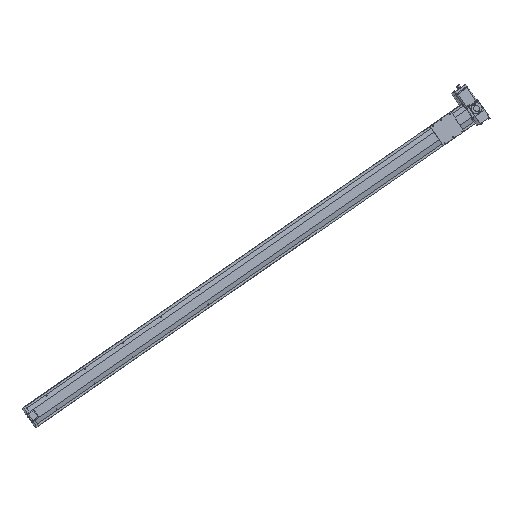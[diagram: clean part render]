
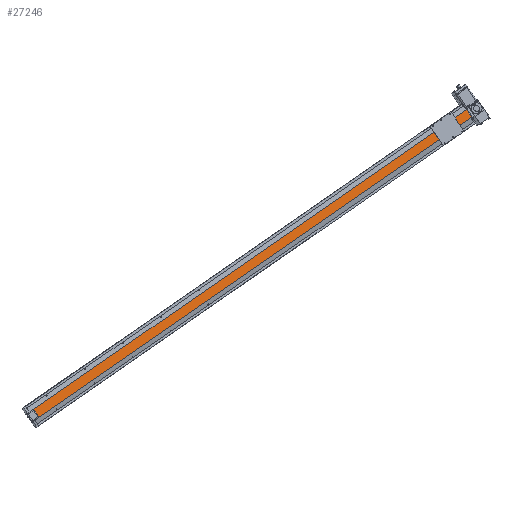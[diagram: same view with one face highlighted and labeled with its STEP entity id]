
A CAD part, front view. The second image highlights one B-rep face of the part: STEP entity #27246.
In plain terms, the highlighted planar face has unit normal (0.131, -0.989, 0.067) as drawn and (0, 1, 0) by its records, which use the part's own axes.
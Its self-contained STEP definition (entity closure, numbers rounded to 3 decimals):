
#3024 = DIRECTION ( 'NONE',  ( 0., 0., -1. ) ) ;
#3025 = VECTOR ( 'NONE', #3024, 1000. ) ;
#3032 = CARTESIAN_POINT ( 'NONE',  ( 20., 61.75, 5.114 ) ) ;
#3036 = CARTESIAN_POINT ( 'NONE',  ( 20., 61.75, 2300. ) ) ;
#3037 = LINE ( 'NONE', #3036, #3025 ) ;
#3042 = CARTESIAN_POINT ( 'NONE',  ( 20., 61.75, 0. ) ) ;
#7636 = ORIENTED_EDGE ( 'NONE', *, *, #17843, .T. ) ;
#7637 = ORIENTED_EDGE ( 'NONE', *, *, #7717, .F. ) ;
#7638 = EDGE_CURVE ( 'NONE', #7651, #7641, #22675, .T. ) ;
#7639 = ORIENTED_EDGE ( 'NONE', *, *, #7638, .F. ) ;
#7640 = EDGE_CURVE ( 'NONE', #7651, #17847, #22737, .T. ) ;
#7641 = VERTEX_POINT ( 'NONE', #22676 ) ;
#7642 = VERTEX_POINT ( 'NONE', #22672 ) ;
#7649 = ORIENTED_EDGE ( 'NONE', *, *, #7640, .T. ) ;
#7651 = VERTEX_POINT ( 'NONE', #22725 ) ;
#7653 = EDGE_CURVE ( 'NONE', #17842, #7642, #22722, .T. ) ;
#7663 = EDGE_LOOP ( 'NONE', ( #7718, #7637, #7639, #7649, #7636 ) ) ;
#7717 = EDGE_CURVE ( 'NONE', #7641, #7642, #22559, .T. ) ;
#7718 = ORIENTED_EDGE ( 'NONE', *, *, #7653, .T. ) ;
#16416 = DIRECTION ( 'NONE',  ( 0., 0., -1. ) ) ;
#16417 = DIRECTION ( 'NONE',  ( 0., -1., 0. ) ) ;
#16423 = CARTESIAN_POINT ( 'NONE',  ( 20., 61.75, 2300. ) ) ;
#16425 = PLANE ( 'NONE',  #16426 ) ;
#16426 = AXIS2_PLACEMENT_3D ( 'NONE', #16423, #16417, #16416 ) ;
#16427 = FACE_OUTER_BOUND ( 'NONE', #7663, .T. ) ;
#17842 = VERTEX_POINT ( 'NONE', #3042 ) ;
#17843 = EDGE_CURVE ( 'NONE', #17847, #17842, #3037, .T. ) ;
#17847 = VERTEX_POINT ( 'NONE', #3032 ) ;
#22521 = DIRECTION ( 'NONE',  ( 0., 0., -1. ) ) ;
#22522 = CARTESIAN_POINT ( 'NONE',  ( -20., 61.75, 2300. ) ) ;
#22559 = LINE ( 'NONE', #22522, #22561 ) ;
#22561 = VECTOR ( 'NONE', #22521, 1000. ) ;
#22672 = CARTESIAN_POINT ( 'NONE',  ( -20., 61.75, 0. ) ) ;
#22674 = CARTESIAN_POINT ( 'NONE',  ( 20., 61.75, 2300. ) ) ;
#22675 = LINE ( 'NONE', #22674, #22693 ) ;
#22676 = CARTESIAN_POINT ( 'NONE',  ( -20., 61.75, 2300. ) ) ;
#22692 = DIRECTION ( 'NONE',  ( -1., 0., 0. ) ) ;
#22693 = VECTOR ( 'NONE', #22692, 1000. ) ;
#22709 = DIRECTION ( 'NONE',  ( -1., 0., 0. ) ) ;
#22710 = VECTOR ( 'NONE', #22709, 1000. ) ;
#22711 = CARTESIAN_POINT ( 'NONE',  ( 20., 61.75, 0. ) ) ;
#22722 = LINE ( 'NONE', #22711, #22710 ) ;
#22725 = CARTESIAN_POINT ( 'NONE',  ( 20., 61.75, 2300. ) ) ;
#22734 = DIRECTION ( 'NONE',  ( 0., 0., -1. ) ) ;
#22735 = VECTOR ( 'NONE', #22734, 1000. ) ;
#22736 = CARTESIAN_POINT ( 'NONE',  ( 20., 61.75, 2300. ) ) ;
#22737 = LINE ( 'NONE', #22736, #22735 ) ;
#27246 = ADVANCED_FACE ( 'NONE', ( #16427 ), #16425, .F. ) ;
